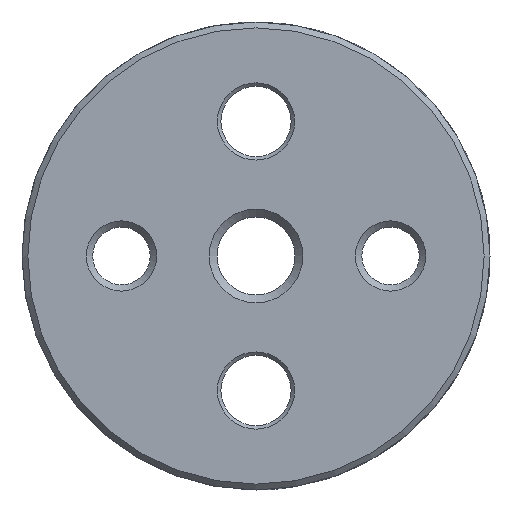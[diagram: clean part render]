
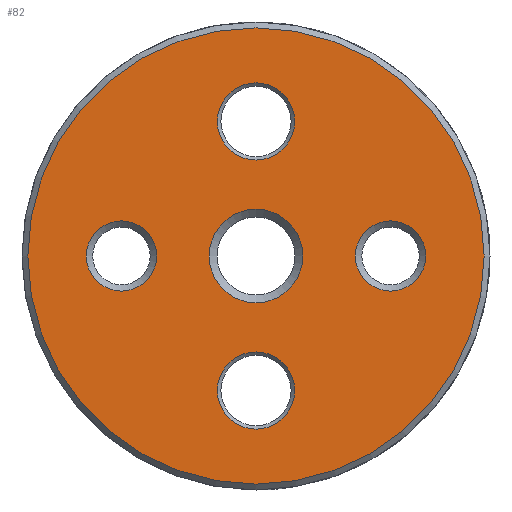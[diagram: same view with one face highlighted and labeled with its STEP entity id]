
A CAD part, front view. The second image highlights one B-rep face of the part: STEP entity #82.
In plain terms, the highlighted planar face has unit normal (0, -1, 0).
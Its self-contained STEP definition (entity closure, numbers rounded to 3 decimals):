
#82 = ADVANCED_FACE( '', ( #123, #124, #125, #126, #127, #128 ), #129, .F. );
#123 = FACE_BOUND( '', #211, .T. );
#124 = FACE_BOUND( '', #212, .T. );
#125 = FACE_BOUND( '', #213, .T. );
#126 = FACE_BOUND( '', #214, .T. );
#127 = FACE_BOUND( '', #215, .T. );
#128 = FACE_OUTER_BOUND( '', #216, .T. );
#129 = PLANE( '', #217 );
#211 = EDGE_LOOP( '', ( #341 ) );
#212 = EDGE_LOOP( '', ( #342 ) );
#213 = EDGE_LOOP( '', ( #343 ) );
#214 = EDGE_LOOP( '', ( #344 ) );
#215 = EDGE_LOOP( '', ( #345 ) );
#216 = EDGE_LOOP( '', ( #346 ) );
#217 = AXIS2_PLACEMENT_3D( '', #347, #348, #349 );
#341 = ORIENTED_EDGE( '', *, *, #506, .F. );
#342 = ORIENTED_EDGE( '', *, *, #507, .F. );
#343 = ORIENTED_EDGE( '', *, *, #508, .F. );
#344 = ORIENTED_EDGE( '', *, *, #509, .F. );
#345 = ORIENTED_EDGE( '', *, *, #510, .F. );
#346 = ORIENTED_EDGE( '', *, *, #505, .T. );
#347 = CARTESIAN_POINT( '', ( 19.5, 0., 0. ) );
#348 = DIRECTION( '', ( 0., 1., 0. ) );
#349 = DIRECTION( '', ( 0., 0., 1. ) );
#505 = EDGE_CURVE( '', #579, #579, #580, .T. );
#506 = EDGE_CURVE( '', #581, #581, #582, .T. );
#507 = EDGE_CURVE( '', #583, #583, #584, .F. );
#508 = EDGE_CURVE( '', #585, #585, #586, .T. );
#509 = EDGE_CURVE( '', #587, #587, #588, .T. );
#510 = EDGE_CURVE( '', #589, #589, #590, .T. );
#579 = VERTEX_POINT( '', #775 );
#580 = CIRCLE( '', #776, 19.5 );
#581 = VERTEX_POINT( '', #777 );
#582 = CIRCLE( '', #778, 4. );
#583 = VERTEX_POINT( '', #779 );
#584 = CIRCLE( '', #780, 3. );
#585 = VERTEX_POINT( '', #781 );
#586 = CIRCLE( '', #782, 3.3 );
#587 = VERTEX_POINT( '', #783 );
#588 = CIRCLE( '', #784, 3.3 );
#589 = VERTEX_POINT( '', #785 );
#590 = CIRCLE( '', #786, 3. );
#775 = CARTESIAN_POINT( '', ( 0., 0., -19.5 ) );
#776 = AXIS2_PLACEMENT_3D( '', #880, #881, #882 );
#777 = CARTESIAN_POINT( '', ( 0., 0., -4. ) );
#778 = AXIS2_PLACEMENT_3D( '', #883, #884, #885 );
#779 = CARTESIAN_POINT( '', ( 11.5, 0., 3. ) );
#780 = AXIS2_PLACEMENT_3D( '', #886, #887, #888 );
#781 = CARTESIAN_POINT( '', ( 0., 0., 8.2 ) );
#782 = AXIS2_PLACEMENT_3D( '', #889, #890, #891 );
#783 = CARTESIAN_POINT( '', ( 0., 0., -14.8 ) );
#784 = AXIS2_PLACEMENT_3D( '', #892, #893, #894 );
#785 = CARTESIAN_POINT( '', ( -11.5, 0., -3. ) );
#786 = AXIS2_PLACEMENT_3D( '', #895, #896, #897 );
#880 = CARTESIAN_POINT( '', ( 0., 0., 0. ) );
#881 = DIRECTION( '', ( 0., -1., 0. ) );
#882 = DIRECTION( '', ( 0., 0., -1. ) );
#883 = CARTESIAN_POINT( '', ( 0., 0., 0. ) );
#884 = DIRECTION( '', ( 0., -1., 0. ) );
#885 = DIRECTION( '', ( 0., 0., -1. ) );
#886 = CARTESIAN_POINT( '', ( 11.5, 0., 0. ) );
#887 = DIRECTION( '', ( 0., 1., 0. ) );
#888 = DIRECTION( '', ( 0., 0., 1. ) );
#889 = CARTESIAN_POINT( '', ( 0., 0., 11.5 ) );
#890 = DIRECTION( '', ( 0., -1., 0. ) );
#891 = DIRECTION( '', ( 0., 0., -1. ) );
#892 = CARTESIAN_POINT( '', ( 0., 0., -11.5 ) );
#893 = DIRECTION( '', ( 0., -1., 0. ) );
#894 = DIRECTION( '', ( 0., 0., -1. ) );
#895 = CARTESIAN_POINT( '', ( -11.5, 0., 0. ) );
#896 = DIRECTION( '', ( 0., -1., 0. ) );
#897 = DIRECTION( '', ( 0., 0., -1. ) );
